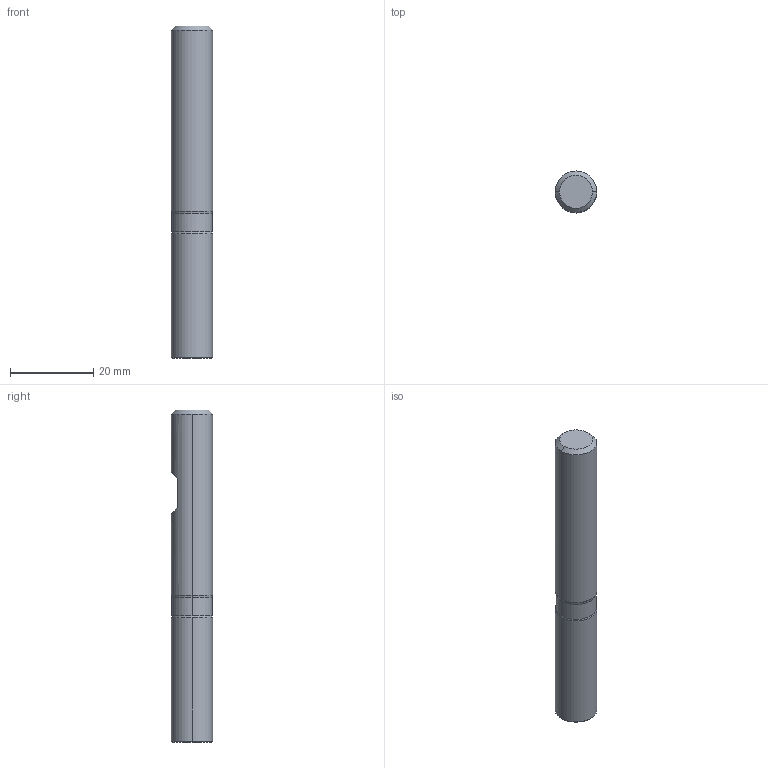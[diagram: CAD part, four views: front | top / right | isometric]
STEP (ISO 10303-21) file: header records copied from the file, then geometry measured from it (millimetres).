
FILE_DESCRIPTION (( 'STEP AP214' ), '1' );
FILE_NAME ('591.100.10_3D-model.step', '2022-02-18T22:16:06', ( '' ), ( '' ), 'SwSTEP 2.0', 'SolidWorks 2020', '' );
FILE_SCHEMA (( 'AUTOMOTIVE_DESIGN' ));
Length unit declared in the file: millimetre
Products named in the file (3): NOCUT-3D^Baugr95; 591.100.10_3D-model; CUT-3D^Baugr95
Assembly tree (2 placements, depth 2):
  591.100.10_3D-model
    CUT-3D^Baugr95
    NOCUT-3D^Baugr95
Bounding box: 10 x 10 x 80 mm (x, y, z)
Volume: 6191.7 mm3; surface area: 2801.1 mm2
Topology: 2 solids, 2 shells, 23 faces, 42 edges, 24 vertices
Faces by surface type: cone 8, plane 7, cylinder 6, torus 2
Entity records: 684 total; most frequent: DIRECTION 124, CARTESIAN_POINT 103, ORIENTED_EDGE 84, AXIS2_PLACEMENT_3D 53, EDGE_CURVE 42, VERTEX_POINT 24, EDGE_LOOP 24, FACE_OUTER_BOUND 23
